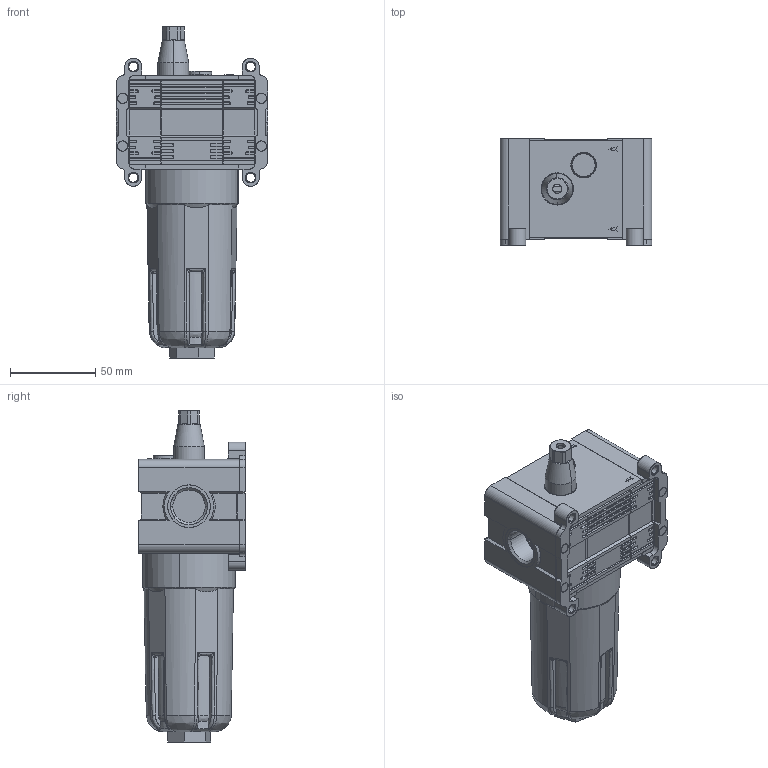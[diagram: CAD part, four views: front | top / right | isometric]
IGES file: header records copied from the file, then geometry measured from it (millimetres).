
Start section: SolidWorks IGES file using analytic representation for surfaces
Global section: file name: K:\Disegni Esecutivi\Trattamento Aria\Assiemi_FRL\FRL-MEDIA\T040\T040_igs\T040205000100A.IGS; native system: SolidWorks 2011; preprocessor: SolidWorks 2011; author: cad05; date: 120220.135956; units: millimetre
Bounding box: 89 x 62.5 x 195 mm (x, y, z)
Surface area: 139472.8 mm2 (no closed solid volume)
Topology: 0 solids, 0 shells, 1854 faces, 19237 edges, 19215 vertices
Faces by surface type: bspline 1095, revolution 759
